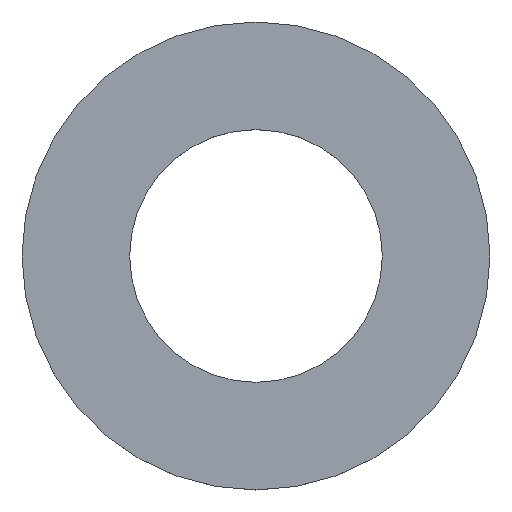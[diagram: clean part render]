
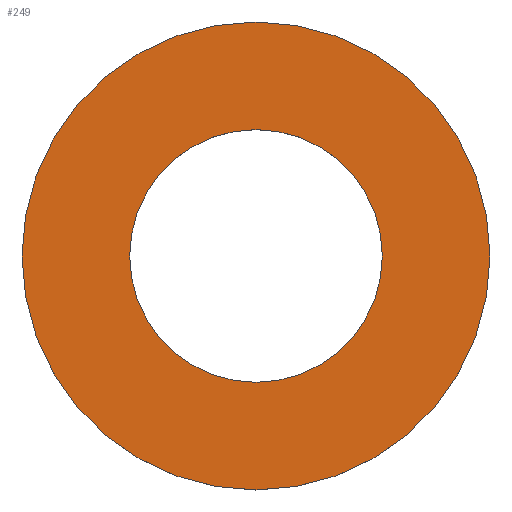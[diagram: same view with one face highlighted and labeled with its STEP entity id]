
A CAD part, top view. The second image highlights one B-rep face of the part: STEP entity #249.
In plain terms, the highlighted planar face has unit normal (0, 0, 1).
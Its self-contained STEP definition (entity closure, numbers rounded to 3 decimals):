
#1 = DIRECTION ( 'NONE',  ( 0., 0., 1. ) ) ;
#3 = VERTEX_POINT ( 'NONE', #64 ) ;
#8 = EDGE_CURVE ( 'NONE', #13, #99, #125, .T. ) ;
#13 = VERTEX_POINT ( 'NONE', #107 ) ;
#14 = AXIS2_PLACEMENT_3D ( 'NONE', #229, #1, #226 ) ;
#22 = AXIS2_PLACEMENT_3D ( 'NONE', #53, #66, #65 ) ;
#28 = ORIENTED_EDGE ( 'NONE', *, *, #8, .F. ) ;
#38 = AXIS2_PLACEMENT_3D ( 'NONE', #162, #127, #109 ) ;
#51 = DIRECTION ( 'NONE',  ( 0., 0., 1. ) ) ;
#53 = CARTESIAN_POINT ( 'NONE',  ( 0., 0., 2. ) ) ;
#54 = EDGE_CURVE ( 'NONE', #3, #161, #156, .T. ) ;
#56 = CARTESIAN_POINT ( 'NONE',  ( -32.5, 0., 2. ) ) ;
#57 = CARTESIAN_POINT ( 'NONE',  ( 0., 0., 2. ) ) ;
#64 = CARTESIAN_POINT ( 'NONE',  ( 32.5, 0., 2. ) ) ;
#65 = DIRECTION ( 'NONE',  ( 1., 0., 0. ) ) ;
#66 = DIRECTION ( 'NONE',  ( 0., 0., 1. ) ) ;
#72 = AXIS2_PLACEMENT_3D ( 'NONE', #57, #231, #131 ) ;
#90 = CARTESIAN_POINT ( 'NONE',  ( 17.55, 0., 2. ) ) ;
#96 = EDGE_LOOP ( 'NONE', ( #28, #145 ) ) ;
#99 = VERTEX_POINT ( 'NONE', #90 ) ;
#105 = ORIENTED_EDGE ( 'NONE', *, *, #213, .T. ) ;
#107 = CARTESIAN_POINT ( 'NONE',  ( -17.55, 0., 2. ) ) ;
#109 = DIRECTION ( 'NONE',  ( 1., 0., 0. ) ) ;
#114 = PLANE ( 'NONE',  #72 ) ;
#120 = EDGE_CURVE ( 'NONE', #99, #13, #197, .T. ) ;
#125 = CIRCLE ( 'NONE', #22, 17.55 ) ;
#127 = DIRECTION ( 'NONE',  ( 0., 0., 1. ) ) ;
#129 = AXIS2_PLACEMENT_3D ( 'NONE', #142, #51, #218 ) ;
#131 = DIRECTION ( 'NONE',  ( 1., 0., 0. ) ) ;
#142 = CARTESIAN_POINT ( 'NONE',  ( 0., 0., 2. ) ) ;
#145 = ORIENTED_EDGE ( 'NONE', *, *, #120, .F. ) ;
#154 = CIRCLE ( 'NONE', #14, 32.5 ) ;
#156 = CIRCLE ( 'NONE', #129, 32.5 ) ;
#161 = VERTEX_POINT ( 'NONE', #56 ) ;
#162 = CARTESIAN_POINT ( 'NONE',  ( 0., 0., 2. ) ) ;
#192 = FACE_OUTER_BOUND ( 'NONE', #209, .T. ) ;
#197 = CIRCLE ( 'NONE', #38, 17.55 ) ;
#209 = EDGE_LOOP ( 'NONE', ( #105, #220 ) ) ;
#213 = EDGE_CURVE ( 'NONE', #161, #3, #154, .T. ) ;
#218 = DIRECTION ( 'NONE',  ( 1., 0., 0. ) ) ;
#220 = ORIENTED_EDGE ( 'NONE', *, *, #54, .T. ) ;
#226 = DIRECTION ( 'NONE',  ( 1., 0., 0. ) ) ;
#229 = CARTESIAN_POINT ( 'NONE',  ( 0., 0., 2. ) ) ;
#231 = DIRECTION ( 'NONE',  ( 0., 0., 1. ) ) ;
#248 = FACE_BOUND ( 'NONE', #96, .T. ) ;
#249 = ADVANCED_FACE ( 'NONE', ( #192, #248 ), #114, .T. ) ;
